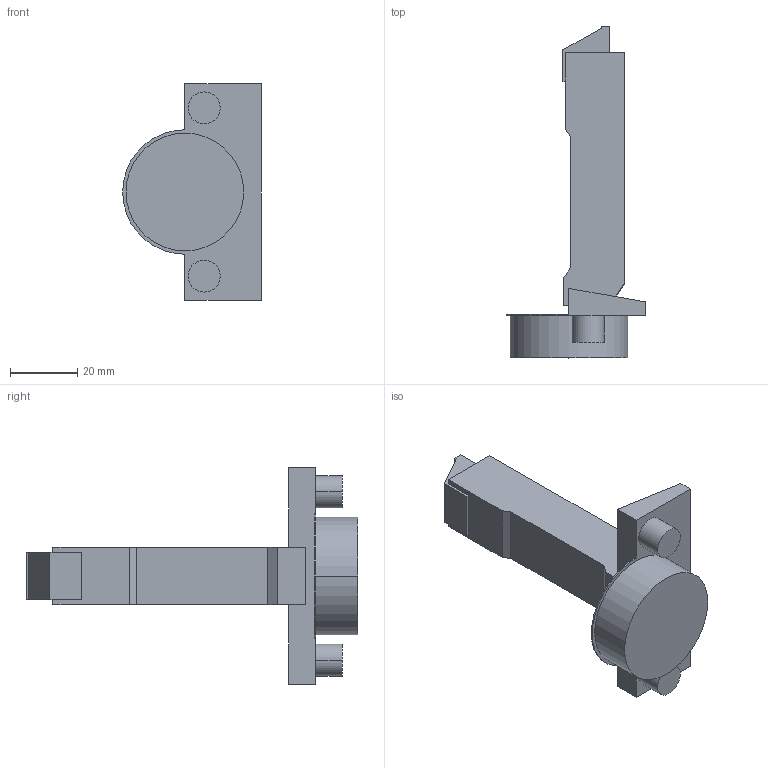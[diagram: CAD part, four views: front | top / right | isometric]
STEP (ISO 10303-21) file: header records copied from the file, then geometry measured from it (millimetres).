
FILE_DESCRIPTION (( 'STEP AP214' ), '1' );
FILE_NAME ('Scharnier T Impresso 120° HS_BB, K03.step', '2010-12-06T09:57:50', ( 'grass' ), ( '' ), 'SwSTEP 2.0', 'SolidWorks 2010', '' );
FILE_SCHEMA (( 'AUTOMOTIVE_DESIGN' ));
Length unit declared in the file: millimetre
Products named in the file (1): Scharnier T Impresso 120° HS_BB, K03
Bounding box: 41.25 x 98.7 x 64.5 mm (x, y, z)
Volume: 43382.7 mm3; surface area: 12392.9 mm2
Topology: 1 solids, 3 shells, 56 faces, 132 edges, 88 vertices
Faces by surface type: plane 39, cylinder 17
Entity records: 1640 total; most frequent: DIRECTION 280, CARTESIAN_POINT 277, ORIENTED_EDGE 264, EDGE_CURVE 132, VECTOR 98, LINE 98, AXIS2_PLACEMENT_3D 91, VERTEX_POINT 88
